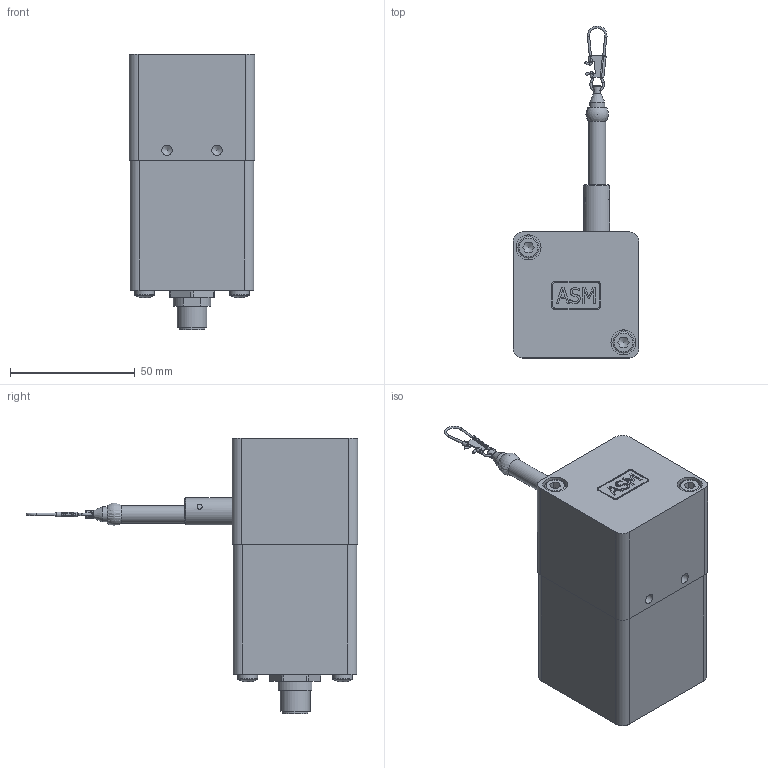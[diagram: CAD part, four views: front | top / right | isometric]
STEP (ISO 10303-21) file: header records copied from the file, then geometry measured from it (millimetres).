
FILE_DESCRIPTION(/* description */ (''),/* implementation_level */ '2;1');
FILE_NAME(/* name */ 'C:\Users\Kamp\Desktop\WS10ZG 250 SB0.stp',/* time_stamp */ '2021-06-08T16:41:59+02:00',/* author */ ('kamp'),/* organization */ (''),/* preprocessor_version */ 'ST-DEVELOPER v15.6',/* originating_system */ 'Autodesk Inventor 2015',/* authorisation */ '');
FILE_SCHEMA (('CONFIG_CONTROL_DESIGN'));
Length unit declared in the file: centimetre
Products named in the file (1): WS10ZG 250 SB0
Bounding box: 50.35 x 132.8 x 110.4 mm (x, y, z)
Volume: 238605.7 mm3; surface area: 27513.9 mm2
Topology: 1 solids, 1 shells, 287 faces, 769 edges, 502 vertices
Faces by surface type: plane 159, cylinder 71, bspline 32, cone 10, torus 9, sphere 6
Full cylindrical faces by diameter (mm): 0.8 x1, 0.9 x7, 1 x5, 1.5 x1, 2 x2, 3 x1, 4.134 x4, 6 x1, 7 x1, 8 x2, 8.3 x1, 8.5 x2, 10 x2, 10.4 x1, 12 x1
Entity records: 10823 total; most frequent: CARTESIAN_POINT 3970, ORIENTED_EDGE 1356, DIRECTION 1235, EDGE_CURVE 678, VERTEX_POINT 468, AXIS2_PLACEMENT_3D 426, LINE 383, VECTOR 383
